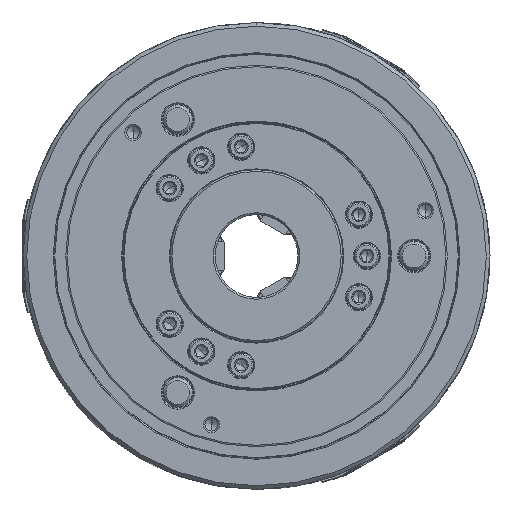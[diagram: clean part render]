
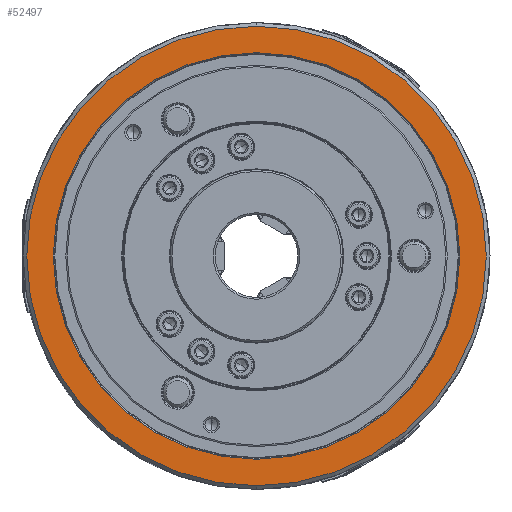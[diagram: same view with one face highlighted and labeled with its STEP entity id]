
A CAD part, left-side view. The second image highlights one B-rep face of the part: STEP entity #52497.
In plain terms, the highlighted planar face has unit normal (-1, 0, 0).
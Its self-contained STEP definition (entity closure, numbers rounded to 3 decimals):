
#8162 = CIRCLE ( 'NONE', #71074, 125. ) ;
#8305 = DIRECTION ( 'NONE',  ( 0., 0., 1. ) ) ;
#9558 = DIRECTION ( 'NONE',  ( 1., 0., 0. ) ) ;
#11998 = CARTESIAN_POINT ( 'NONE',  ( -100., 0., 110.6 ) ) ;
#12862 = AXIS2_PLACEMENT_3D ( 'NONE', #21913, #38992, #83029 ) ;
#12927 = ORIENTED_EDGE ( 'NONE', *, *, #75361, .F. ) ;
#14866 = FACE_BOUND ( 'NONE', #54270, .T. ) ;
#19043 = ORIENTED_EDGE ( 'NONE', *, *, #77898, .T. ) ;
#20756 = CARTESIAN_POINT ( 'NONE',  ( -100., 0., 0. ) ) ;
#21761 = DIRECTION ( 'NONE',  ( 1., 0., 0. ) ) ;
#21913 = CARTESIAN_POINT ( 'NONE',  ( -100., 0., 0. ) ) ;
#21940 = CARTESIAN_POINT ( 'NONE',  ( -100., 0., 125. ) ) ;
#24744 = CIRCLE ( 'NONE', #81219, 125. ) ;
#26050 = VERTEX_POINT ( 'NONE', #61132 ) ;
#28557 = ORIENTED_EDGE ( 'NONE', *, *, #73799, .F. ) ;
#32707 = DIRECTION ( 'NONE',  ( 1., 0., 0. ) ) ;
#34652 = VERTEX_POINT ( 'NONE', #80939 ) ;
#38992 = DIRECTION ( 'NONE',  ( 1., 0., 0. ) ) ;
#39806 = VERTEX_POINT ( 'NONE', #21940 ) ;
#40302 = DIRECTION ( 'NONE',  ( 0., 0., -1. ) ) ;
#51578 = CIRCLE ( 'NONE', #12862, 110.6 ) ;
#52497 = ADVANCED_FACE ( 'NONE', ( #14866, #53747 ), #99225, .T. ) ;
#53747 = FACE_OUTER_BOUND ( 'NONE', #68606, .T. ) ;
#54270 = EDGE_LOOP ( 'NONE', ( #19043, #84272 ) ) ;
#55965 = DIRECTION ( 'NONE',  ( 0., 0., -1. ) ) ;
#56967 = CARTESIAN_POINT ( 'NONE',  ( -100., 0., 0. ) ) ;
#61132 = CARTESIAN_POINT ( 'NONE',  ( -100., 0., -110.6 ) ) ;
#64794 = AXIS2_PLACEMENT_3D ( 'NONE', #56967, #32707, #55965 ) ;
#67690 = EDGE_CURVE ( 'NONE', #26050, #87523, #74453, .T. ) ;
#68466 = CARTESIAN_POINT ( 'NONE',  ( -100., 110.6, 0. ) ) ;
#68606 = EDGE_LOOP ( 'NONE', ( #12927, #28557 ) ) ;
#71074 = AXIS2_PLACEMENT_3D ( 'NONE', #92917, #9558, #40302 ) ;
#73799 = EDGE_CURVE ( 'NONE', #39806, #34652, #8162, .T. ) ;
#74453 = CIRCLE ( 'NONE', #64794, 110.6 ) ;
#75361 = EDGE_CURVE ( 'NONE', #34652, #39806, #24744, .T. ) ;
#77898 = EDGE_CURVE ( 'NONE', #87523, #26050, #51578, .T. ) ;
#80939 = CARTESIAN_POINT ( 'NONE',  ( -100., 0., -125. ) ) ;
#81219 = AXIS2_PLACEMENT_3D ( 'NONE', #20756, #21761, #83379 ) ;
#83029 = DIRECTION ( 'NONE',  ( 0., 0., -1. ) ) ;
#83379 = DIRECTION ( 'NONE',  ( 0., 0., -1. ) ) ;
#84272 = ORIENTED_EDGE ( 'NONE', *, *, #67690, .T. ) ;
#86168 = AXIS2_PLACEMENT_3D ( 'NONE', #68466, #92665, #8305 ) ;
#87523 = VERTEX_POINT ( 'NONE', #11998 ) ;
#92665 = DIRECTION ( 'NONE',  ( -1., 0., 0. ) ) ;
#92917 = CARTESIAN_POINT ( 'NONE',  ( -100., 0., 0. ) ) ;
#99225 = PLANE ( 'NONE',  #86168 ) ;
